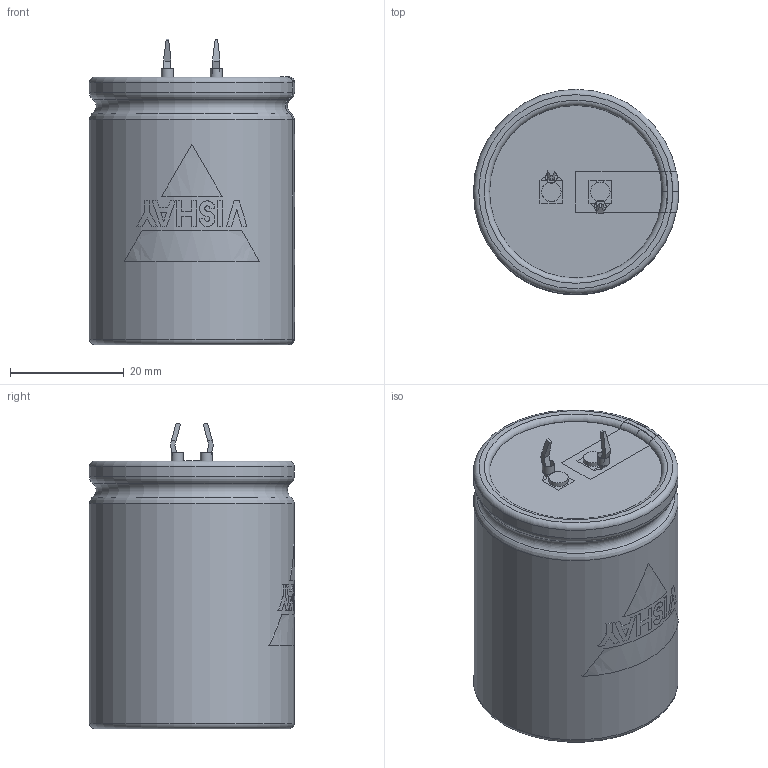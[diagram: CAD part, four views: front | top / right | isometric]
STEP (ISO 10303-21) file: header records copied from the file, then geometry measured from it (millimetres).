
FILE_DESCRIPTION(('FreeCAD Model'),'2;1');
FILE_NAME( 'C:/Users/Gebruiker/Documents/FreeCAD/SnapIn_35x45_2pin_5.8.step', '2020-11-12T20:40:53',('Author'),(''), 'Open CASCADE STEP processor 6.8','FreeCAD','Unknown');
FILE_SCHEMA(('AUTOMOTIVE_DESIGN_CC2 { 1 2 10303 214 -1 1 5 4 }'));
Length unit declared in the file: millimetre
Products named in the file (9): ASSEMBLY; TerminalMin; TerminalPlus; PCBHoles; Disc; BottomInsulation; Can3D; InkMinusBar; InkLogo
Assembly tree (8 placements, depth 2):
  ASSEMBLY
    TerminalMin
    TerminalPlus
    PCBHoles
    Disc
    BottomInsulation
    Can3D
    InkMinusBar
    InkLogo
Bounding box: 36.05 x 36.05 x 53.75 mm (x, y, z)
Volume: 54569.4 mm3; surface area: 18028.9 mm2
Topology: 16 solids, 16 shells, 193 faces, 473 edges, 310 vertices
Faces by surface type: plane 146, cylinder 29, torus 18
Full cylindrical faces by diameter (mm): 2 x2, 2.1 x2, 3.4 x2, 28.8 x2, 30.3 x1, 36 x2
Entity records: 20323 total; most frequent: CARTESIAN_POINT 9715, DIRECTION 1653, ORIENTED_EDGE 946, PCURVE 946, DEFINITIONAL_REPRESENTATION 946, LINE 916, VECTOR 916, EDGE_CURVE 473
